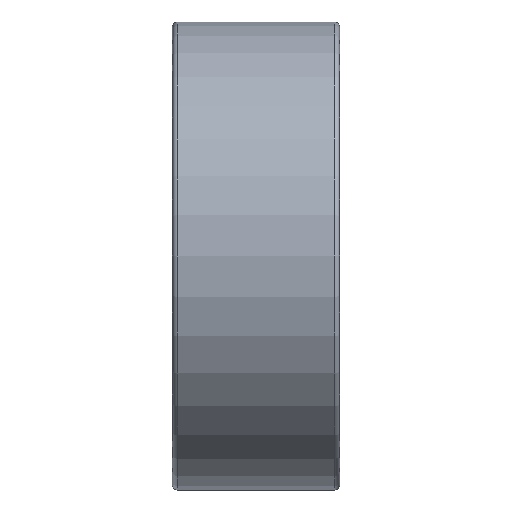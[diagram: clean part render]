
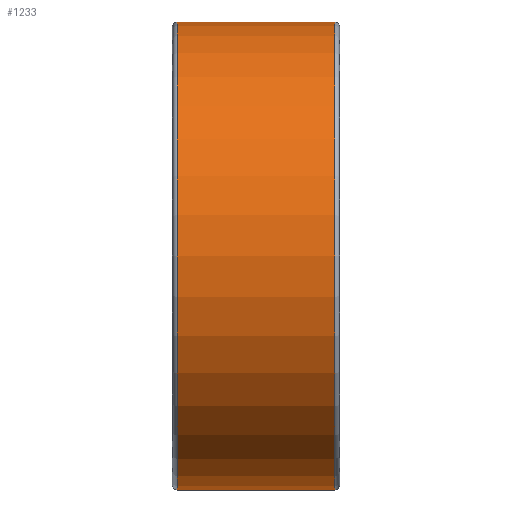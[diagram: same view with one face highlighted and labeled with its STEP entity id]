
A CAD part, front view. The second image highlights one B-rep face of the part: STEP entity #1233.
In plain terms, the highlighted cylindrical face has radius 7 mm (diameter 14 mm), a partial arc.
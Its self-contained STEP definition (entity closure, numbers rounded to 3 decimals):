
#318=DIRECTION('',(-1.,0.,0.));
#319=VECTOR('',#318,4.7);
#320=CARTESIAN_POINT('',(2.35,0.,7.));
#321=LINE('',#320,#319);
#357=CARTESIAN_POINT('',(2.35,0.,0.));
#358=DIRECTION('',(-1.,0.,0.));
#359=DIRECTION('',(0.,0.,-1.));
#360=AXIS2_PLACEMENT_3D('',#357,#358,#359);
#362=DIRECTION('',(-1.,0.,0.));
#363=VECTOR('',#362,4.7);
#364=CARTESIAN_POINT('',(2.35,0.,-7.));
#365=LINE('',#364,#363);
#371=CARTESIAN_POINT('',(-2.35,0.,0.));
#372=DIRECTION('',(1.,0.,0.));
#373=DIRECTION('',(0.,0.,1.));
#374=AXIS2_PLACEMENT_3D('',#371,#372,#373);
#900=CARTESIAN_POINT('',(2.35,0.,7.));
#901=VERTEX_POINT('',#900);
#902=CARTESIAN_POINT('',(2.35,0.,-7.));
#903=VERTEX_POINT('',#902);
#908=CARTESIAN_POINT('',(-2.35,0.,-7.));
#909=VERTEX_POINT('',#908);
#910=CARTESIAN_POINT('',(-2.35,0.,7.));
#911=VERTEX_POINT('',#910);
#1221=CARTESIAN_POINT('',(0.,0.,0.));
#1222=DIRECTION('',(-1.,0.,0.));
#1223=DIRECTION('',(0.,0.,1.));
#1224=AXIS2_PLACEMENT_3D('',#1221,#1222,#1223);
#1225=CYLINDRICAL_SURFACE('',#1224,7.);
#1226=ORIENTED_EDGE('',*,*,#1171,.T.);
#1228=ORIENTED_EDGE('',*,*,#1227,.F.);
#1229=ORIENTED_EDGE('',*,*,#1168,.F.);
#1230=ORIENTED_EDGE('',*,*,#1214,.F.);
#1231=EDGE_LOOP('',(#1226,#1228,#1229,#1230));
#1232=FACE_OUTER_BOUND('',#1231,.F.);
#1233=ADVANCED_FACE('',(#1232),#1225,.T.);
#361=CIRCLE('',#360,7.);
#375=CIRCLE('',#374,7.);
#1168=EDGE_CURVE('',#901,#911,#321,.T.);
#1171=EDGE_CURVE('',#903,#909,#365,.T.);
#1214=EDGE_CURVE('',#903,#901,#361,.T.);
#1227=EDGE_CURVE('',#911,#909,#375,.T.);
